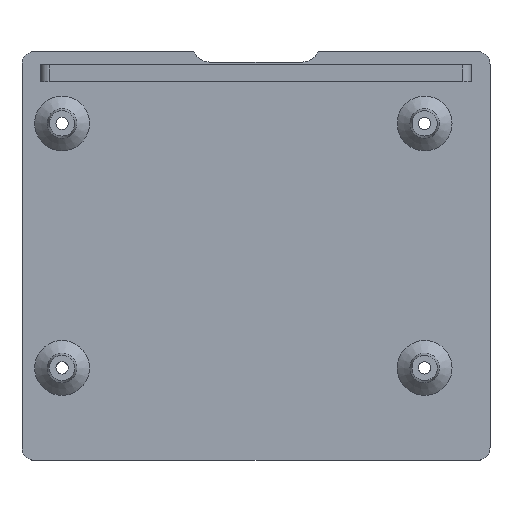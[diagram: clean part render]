
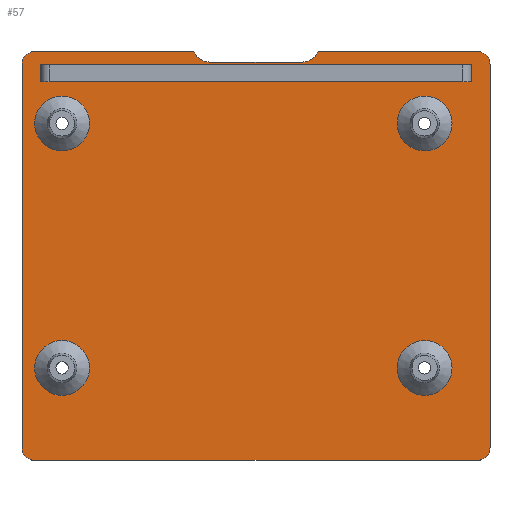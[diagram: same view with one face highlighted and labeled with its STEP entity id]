
A CAD part, top view. The second image highlights one B-rep face of the part: STEP entity #57.
In plain terms, the highlighted planar face has unit normal (0, 0, 1).
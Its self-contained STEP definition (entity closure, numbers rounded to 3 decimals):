
#21 = EDGE_CURVE('',#22,#24,#26,.T.);
#22 = VERTEX_POINT('',#23);
#23 = CARTESIAN_POINT('',(-55.5,-45.5,5.));
#24 = VERTEX_POINT('',#25);
#25 = CARTESIAN_POINT('',(-55.5,45.5,5.));
#26 = LINE('',#27,#28);
#27 = CARTESIAN_POINT('',(-55.5,-48.5,5.));
#28 = VECTOR('',#29,1.);
#29 = DIRECTION('',(0.,1.,0.));
#57 = ADVANCED_FACE('',(#58,#153,#164,#175,#186,#220),#231,.T.);
#58 = FACE_BOUND('',#59,.T.);
#59 = EDGE_LOOP('',(#60,#61,#70,#78,#87,#95,#104,#112,#121,#129,#138,
    #146));
#60 = ORIENTED_EDGE('',*,*,#21,.F.);
#61 = ORIENTED_EDGE('',*,*,#62,.T.);
#62 = EDGE_CURVE('',#22,#63,#65,.T.);
#63 = VERTEX_POINT('',#64);
#64 = CARTESIAN_POINT('',(-52.5,-48.5,5.));
#65 = CIRCLE('',#66,3.);
#66 = AXIS2_PLACEMENT_3D('',#67,#68,#69);
#67 = CARTESIAN_POINT('',(-52.5,-45.5,5.));
#68 = DIRECTION('',(-0.,0.,1.));
#69 = DIRECTION('',(0.,-1.,0.));
#70 = ORIENTED_EDGE('',*,*,#71,.T.);
#71 = EDGE_CURVE('',#63,#72,#74,.T.);
#72 = VERTEX_POINT('',#73);
#73 = CARTESIAN_POINT('',(52.5,-48.5,5.));
#74 = LINE('',#75,#76);
#75 = CARTESIAN_POINT('',(-55.5,-48.5,5.));
#76 = VECTOR('',#77,1.);
#77 = DIRECTION('',(1.,0.,0.));
#78 = ORIENTED_EDGE('',*,*,#79,.F.);
#79 = EDGE_CURVE('',#80,#72,#82,.T.);
#80 = VERTEX_POINT('',#81);
#81 = CARTESIAN_POINT('',(55.5,-45.5,5.));
#82 = CIRCLE('',#83,3.);
#83 = AXIS2_PLACEMENT_3D('',#84,#85,#86);
#84 = CARTESIAN_POINT('',(52.5,-45.5,5.));
#85 = DIRECTION('',(-0.,-0.,-1.));
#86 = DIRECTION('',(0.,-1.,0.));
#87 = ORIENTED_EDGE('',*,*,#88,.T.);
#88 = EDGE_CURVE('',#80,#89,#91,.T.);
#89 = VERTEX_POINT('',#90);
#90 = CARTESIAN_POINT('',(55.5,45.5,5.));
#91 = LINE('',#92,#93);
#92 = CARTESIAN_POINT('',(55.5,-48.5,5.));
#93 = VECTOR('',#94,1.);
#94 = DIRECTION('',(0.,1.,0.));
#95 = ORIENTED_EDGE('',*,*,#96,.T.);
#96 = EDGE_CURVE('',#89,#97,#99,.T.);
#97 = VERTEX_POINT('',#98);
#98 = CARTESIAN_POINT('',(52.5,48.5,5.));
#99 = CIRCLE('',#100,3.);
#100 = AXIS2_PLACEMENT_3D('',#101,#102,#103);
#101 = CARTESIAN_POINT('',(52.5,45.5,5.));
#102 = DIRECTION('',(-0.,0.,1.));
#103 = DIRECTION('',(0.,-1.,0.));
#104 = ORIENTED_EDGE('',*,*,#105,.F.);
#105 = EDGE_CURVE('',#106,#97,#108,.T.);
#106 = VERTEX_POINT('',#107);
#107 = CARTESIAN_POINT('',(14.708,48.5,5.));
#108 = LINE('',#109,#110);
#109 = CARTESIAN_POINT('',(-55.5,48.5,5.));
#110 = VECTOR('',#111,1.);
#111 = DIRECTION('',(1.,0.,0.));
#112 = ORIENTED_EDGE('',*,*,#113,.F.);
#113 = EDGE_CURVE('',#114,#106,#116,.T.);
#114 = VERTEX_POINT('',#115);
#115 = CARTESIAN_POINT('',(11.,46.,5.));
#116 = CIRCLE('',#117,4.);
#117 = AXIS2_PLACEMENT_3D('',#118,#119,#120);
#118 = CARTESIAN_POINT('',(11.,50.,5.));
#119 = DIRECTION('',(0.,0.,1.));
#120 = DIRECTION('',(1.,0.,0.));
#121 = ORIENTED_EDGE('',*,*,#122,.T.);
#122 = EDGE_CURVE('',#114,#123,#125,.T.);
#123 = VERTEX_POINT('',#124);
#124 = CARTESIAN_POINT('',(-11.,46.,5.));
#125 = LINE('',#126,#127);
#126 = CARTESIAN_POINT('',(-35.25,46.,5.));
#127 = VECTOR('',#128,1.);
#128 = DIRECTION('',(-1.,0.,0.));
#129 = ORIENTED_EDGE('',*,*,#130,.F.);
#130 = EDGE_CURVE('',#131,#123,#133,.T.);
#131 = VERTEX_POINT('',#132);
#132 = CARTESIAN_POINT('',(-14.708,48.5,5.));
#133 = CIRCLE('',#134,4.);
#134 = AXIS2_PLACEMENT_3D('',#135,#136,#137);
#135 = CARTESIAN_POINT('',(-11.,50.,5.));
#136 = DIRECTION('',(0.,0.,1.));
#137 = DIRECTION('',(-1.,0.,0.));
#138 = ORIENTED_EDGE('',*,*,#139,.F.);
#139 = EDGE_CURVE('',#140,#131,#142,.T.);
#140 = VERTEX_POINT('',#141);
#141 = CARTESIAN_POINT('',(-52.5,48.5,5.));
#142 = LINE('',#143,#144);
#143 = CARTESIAN_POINT('',(-55.5,48.5,5.));
#144 = VECTOR('',#145,1.);
#145 = DIRECTION('',(1.,0.,0.));
#146 = ORIENTED_EDGE('',*,*,#147,.F.);
#147 = EDGE_CURVE('',#24,#140,#148,.T.);
#148 = CIRCLE('',#149,3.);
#149 = AXIS2_PLACEMENT_3D('',#150,#151,#152);
#150 = CARTESIAN_POINT('',(-52.5,45.5,5.));
#151 = DIRECTION('',(-0.,-0.,-1.));
#152 = DIRECTION('',(0.,-1.,0.));
#153 = FACE_BOUND('',#154,.T.);
#154 = EDGE_LOOP('',(#155));
#155 = ORIENTED_EDGE('',*,*,#156,.F.);
#156 = EDGE_CURVE('',#157,#157,#159,.T.);
#157 = VERTEX_POINT('',#158);
#158 = CARTESIAN_POINT('',(-39.5,-26.562,5.));
#159 = CIRCLE('',#160,6.5);
#160 = AXIS2_PLACEMENT_3D('',#161,#162,#163);
#161 = CARTESIAN_POINT('',(-46.,-26.562,5.));
#162 = DIRECTION('',(0.,0.,1.));
#163 = DIRECTION('',(1.,0.,0.));
#164 = FACE_BOUND('',#165,.T.);
#165 = EDGE_LOOP('',(#166));
#166 = ORIENTED_EDGE('',*,*,#167,.F.);
#167 = EDGE_CURVE('',#168,#168,#170,.T.);
#168 = VERTEX_POINT('',#169);
#169 = CARTESIAN_POINT('',(46.5,-26.562,5.));
#170 = CIRCLE('',#171,6.5);
#171 = AXIS2_PLACEMENT_3D('',#172,#173,#174);
#172 = CARTESIAN_POINT('',(40.,-26.562,5.));
#173 = DIRECTION('',(0.,0.,1.));
#174 = DIRECTION('',(1.,0.,0.));
#175 = FACE_BOUND('',#176,.T.);
#176 = EDGE_LOOP('',(#177));
#177 = ORIENTED_EDGE('',*,*,#178,.F.);
#178 = EDGE_CURVE('',#179,#179,#181,.T.);
#179 = VERTEX_POINT('',#180);
#180 = CARTESIAN_POINT('',(-39.5,31.438,5.));
#181 = CIRCLE('',#182,6.5);
#182 = AXIS2_PLACEMENT_3D('',#183,#184,#185);
#183 = CARTESIAN_POINT('',(-46.,31.438,5.));
#184 = DIRECTION('',(0.,0.,1.));
#185 = DIRECTION('',(1.,0.,0.));
#186 = FACE_BOUND('',#187,.T.);
#187 = EDGE_LOOP('',(#188,#198,#206,#214));
#188 = ORIENTED_EDGE('',*,*,#189,.F.);
#189 = EDGE_CURVE('',#190,#192,#194,.T.);
#190 = VERTEX_POINT('',#191);
#191 = CARTESIAN_POINT('',(50.732,41.3,5.));
#192 = VERTEX_POINT('',#193);
#193 = CARTESIAN_POINT('',(50.732,45.3,5.));
#194 = LINE('',#195,#196);
#195 = CARTESIAN_POINT('',(50.732,41.3,5.));
#196 = VECTOR('',#197,1.);
#197 = DIRECTION('',(0.,1.,0.));
#198 = ORIENTED_EDGE('',*,*,#199,.T.);
#199 = EDGE_CURVE('',#190,#200,#202,.T.);
#200 = VERTEX_POINT('',#201);
#201 = CARTESIAN_POINT('',(-50.732,41.3,5.));
#202 = LINE('',#203,#204);
#203 = CARTESIAN_POINT('',(-53.25,41.3,5.));
#204 = VECTOR('',#205,1.);
#205 = DIRECTION('',(-1.,0.,0.));
#206 = ORIENTED_EDGE('',*,*,#207,.T.);
#207 = EDGE_CURVE('',#200,#208,#210,.T.);
#208 = VERTEX_POINT('',#209);
#209 = CARTESIAN_POINT('',(-50.732,45.3,5.));
#210 = LINE('',#211,#212);
#211 = CARTESIAN_POINT('',(-50.732,41.3,5.));
#212 = VECTOR('',#213,1.);
#213 = DIRECTION('',(0.,1.,0.));
#214 = ORIENTED_EDGE('',*,*,#215,.F.);
#215 = EDGE_CURVE('',#192,#208,#216,.T.);
#216 = LINE('',#217,#218);
#217 = CARTESIAN_POINT('',(-53.25,45.3,5.));
#218 = VECTOR('',#219,1.);
#219 = DIRECTION('',(-1.,0.,0.));
#220 = FACE_BOUND('',#221,.T.);
#221 = EDGE_LOOP('',(#222));
#222 = ORIENTED_EDGE('',*,*,#223,.F.);
#223 = EDGE_CURVE('',#224,#224,#226,.T.);
#224 = VERTEX_POINT('',#225);
#225 = CARTESIAN_POINT('',(46.5,31.438,5.));
#226 = CIRCLE('',#227,6.5);
#227 = AXIS2_PLACEMENT_3D('',#228,#229,#230);
#228 = CARTESIAN_POINT('',(40.,31.438,5.));
#229 = DIRECTION('',(0.,0.,1.));
#230 = DIRECTION('',(1.,0.,0.));
#231 = PLANE('',#232);
#232 = AXIS2_PLACEMENT_3D('',#233,#234,#235);
#233 = CARTESIAN_POINT('',(-55.5,-48.5,5.));
#234 = DIRECTION('',(0.,0.,1.));
#235 = DIRECTION('',(1.,0.,0.));
